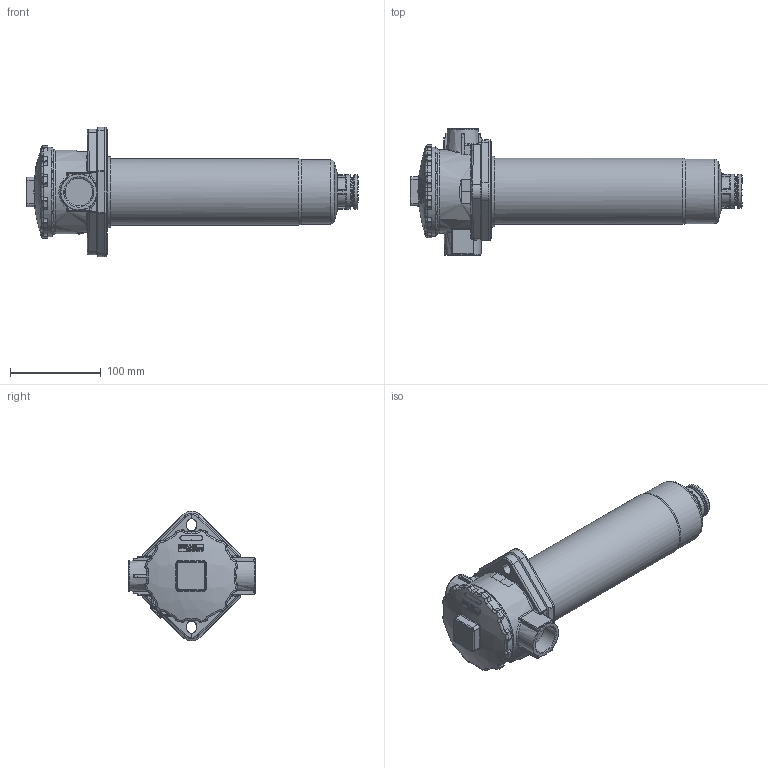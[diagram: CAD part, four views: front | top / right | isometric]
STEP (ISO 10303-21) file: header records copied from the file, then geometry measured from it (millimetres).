
FILE_DESCRIPTION((''),'2;1');
FILE_NAME('U:\Users\I.maeder\13431900(235311).stp', '2014-02-20T09:55:37',('User'),('SDRC'),'I-DEAS Master Series 9','UNIX', 'Yes');
FILE_SCHEMA(('AUTOMOTIVE_DESIGN { 1 0 10303 214 1 1 1 1 }'));
Length unit declared in the file: millimetre
Products named in the file (1): 13431900(235311)
Bounding box: 365.1 x 139 x 142.65 mm (x, y, z)
Volume: 1672564.3 mm3; surface area: 136134.5 mm2
Topology: 1 solids, 3 shells, 1143 faces, 2955 edges, 1785 vertices
Faces by surface type: bspline 1143
Entity records: 41207 total; most frequent: CARTESIAN_POINT 24724, ORIENTED_EDGE 5796, EDGE_CURVE 2898, VERTEX_POINT 1784, B_SPLINE_CURVE_WITH_KNOTS 1670, EDGE_LOOP 1174, FACE_OUTER_BOUND 1143, ADVANCED_FACE 1143
